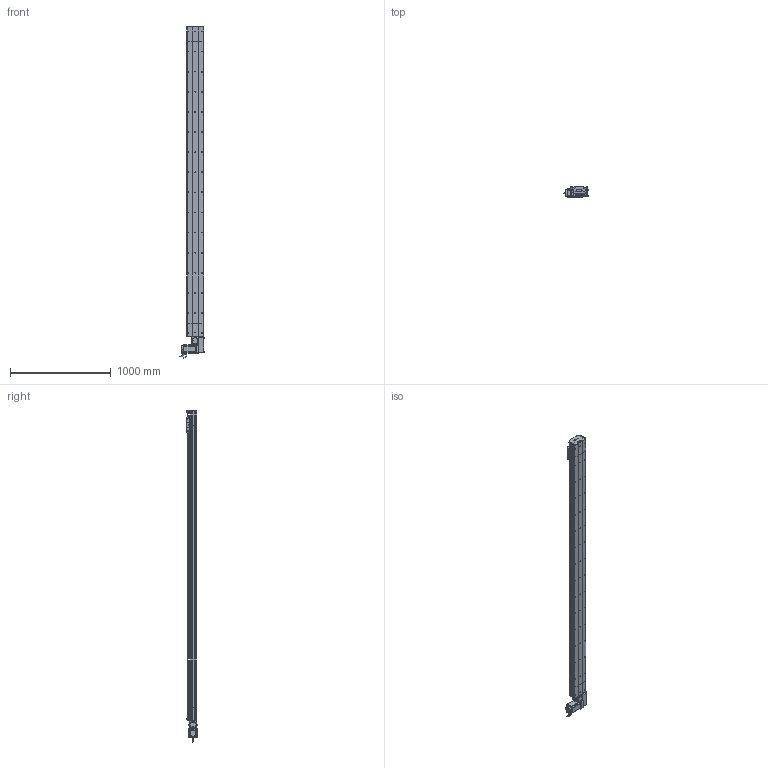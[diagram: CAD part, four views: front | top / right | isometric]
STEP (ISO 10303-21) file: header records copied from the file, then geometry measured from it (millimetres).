
FILE_DESCRIPTION (( 'STEP AP214' ), '1' );
FILE_NAME ('D17 TBH LH S2800.STEP', '2010-06-30T08:53:24', ( 'Christophe Gaillard' ), ( 'SGA' ), 'SwSTEP 2.0', 'SolidWorks 2010', '' );
FILE_SCHEMA (( 'AUTOMOTIVE_DESIGN' ));
Length unit declared in the file: millimetre
Products named in the file (40): codeur 90BLDC125-640; corps 90BLDC125A-640; Chariot D17; avant 90BLDC125A-640; Moteur motionking 90BLDC125A-640; Renvoi LH_Default; vis M5 L5_Default; cache D17_Default; Arbre+rail head D17B; couroie head D17_Default; cache arbre D17_Default; poulie head_Default; plaque de  bout head D17B LH_Default; couvercle D17B head_Default; corpl head D17 _Default; Head LH D17B_Default; Vis M5 L16-2_Default; Couroie+ rail D17 Course 2800 ; corp D17B 2800_Default; Couroie tail D17B_Default; poulie tail_Default; Tail D17B_Default; vis M5 L8 90°_Default; course 2800 D17B_Default; chariot D17S_Default; tete d''axe poulie D17B; vis M5 L12_Default; vis M5 L70_Default; Plaque racord D17_Default; vis M5 L16_Default; vis M5 L25_Default; Rail D17B; plaque de  bout tail D17B_Default; guide D17; D17 TBH LH S2800; Conecteur_Default; corpl tail D17B_Default; Conecteur2_Default; couvercle D17B course L2800_Default; couvercle D17B_Default
Assembly tree (70 placements, depth 4):
  D17 TBH LH S2800
    chariot D17S_Default
      guide D17  x2
      vis M5 L12_Default  x4
      Chariot D17
    Tail D17B_Default
      plaque de  bout tail D17B_Default
      vis M5 L12_Default  x4
      corpl tail D17B_Default
      vis M5 L8 90°_Default  x2
      tete d''axe poulie D17B
      couvercle D17B_Default
      Couroie tail D17B_Default
      poulie tail_Default
      vis M5 L25_Default  x2
      Rail D17B
    Head LH D17B_Default
      vis M5 L12_Default  x8
      vis M5 L16_Default  x2
      couvercle D17B head_Default
      vis M5 L25_Default  x2
      poulie head_Default
      vis M5 L70_Default  x4
      couroie head D17_Default
      vis M5 L5_Default  x4
      corpl head D17 _Default
      cache arbre D17_Default
      cache D17_Default  x2
      Vis M5 L16-2_Default  x4
      Moteur motionking 90BLDC125A-640
        Conecteur_Default
        avant 90BLDC125A-640
        corps 90BLDC125A-640
        codeur 90BLDC125-640
        Conecteur2_Default
      Arbre+rail head D17B
      plaque de  bout head D17B LH_Default
      Renvoi LH_Default
      Plaque racord D17_Default
    course 2800 D17B_Default
      Couroie+ rail D17 Course 2800 
      corp D17B 2800_Default
      couvercle D17B course L2800_Default
Bounding box: 245.2 x 105.65 x 3300.95 mm (x, y, z)
Volume: 18427480.6 mm3; surface area: 5357870.2 mm2
Topology: 94 solids, 94 shells, 2761 faces, 7041 edges, 4530 vertices
Faces by surface type: plane 1607, cylinder 841, bspline 136, cone 88, torus 85, sphere 4
Entity records: 87288 total; most frequent: CARTESIAN_POINT 25613, ORIENTED_EDGE 10854, DIRECTION 10284, EDGE_CURVE 5427, VERTEX_POINT 3554, VECTOR 3534, LINE 3534, AXIS2_PLACEMENT_3D 3375
